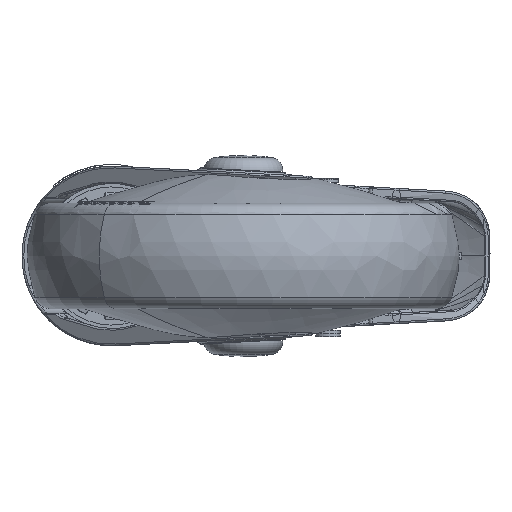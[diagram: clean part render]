
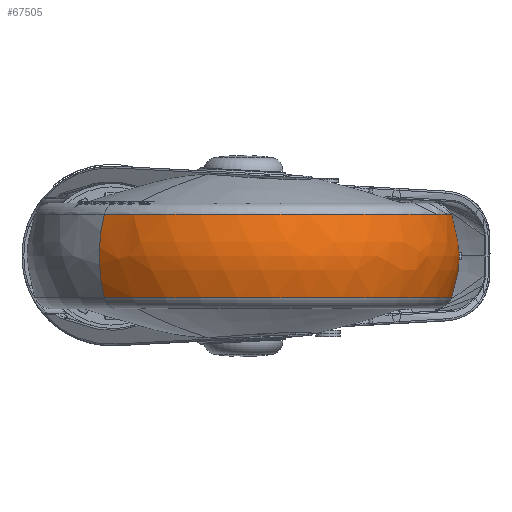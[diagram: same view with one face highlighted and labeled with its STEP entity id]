
A CAD part, front view. The second image highlights one B-rep face of the part: STEP entity #67505.
In plain terms, the highlighted free-form (B-spline) face has degree [3, 3] with [7, 4] control points.
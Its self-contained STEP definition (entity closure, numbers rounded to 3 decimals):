
#62583=CARTESIAN_POINT('',(38.,-82.3,12.017));
#62584=DIRECTION('',(0.,0.,1.));
#62585=DIRECTION('',(-0.667,-0.745,0.));
#62586=AXIS2_PLACEMENT_3D('',#62583,#62584,#62585);
#62588=CARTESIAN_POINT('',(57.001,-61.058,0.));
#62589=DIRECTION('',(0.745,-0.667,0.));
#62590=DIRECTION('',(0.624,0.697,-0.353));
#62591=AXIS2_PLACEMENT_3D('',#62588,#62589,#62590);
#62593=CARTESIAN_POINT('',(38.,-82.3,-12.017));
#62594=DIRECTION('',(0.,0.,1.));
#62595=DIRECTION('',(-0.667,-0.745,0.));
#62596=AXIS2_PLACEMENT_3D('',#62593,#62594,#62595);
#62598=CARTESIAN_POINT('',(18.999,-103.542,0.));
#62599=DIRECTION('',(-0.745,0.667,0.));
#62600=DIRECTION('',(-0.624,-0.697,-0.353));
#62601=AXIS2_PLACEMENT_3D('',#62598,#62599,#62600);
#66091=CARTESIAN_POINT('',(-2.205,-127.248,
12.017));
#66092=CARTESIAN_POINT('',(78.205,-37.352,
12.017));
#66093=VERTEX_POINT('',#66091);
#66094=VERTEX_POINT('',#66092);
#66095=CARTESIAN_POINT('',(-2.205,-127.248,
-12.017));
#66096=CARTESIAN_POINT('',(78.205,-37.352,
-12.017));
#66097=VERTEX_POINT('',#66095);
#66098=VERTEX_POINT('',#66096);
#67468=CARTESIAN_POINT('',(75.194,-35.055,
12.476));
#67469=CARTESIAN_POINT('',(77.174,-32.541,
4.361));
#67470=CARTESIAN_POINT('',(77.174,-32.541,
-4.361));
#67471=CARTESIAN_POINT('',(75.194,-35.055,
-12.476));
#67472=CARTESIAN_POINT('',(104.268,-57.944,
12.476));
#67473=CARTESIAN_POINT('',(107.795,-56.648,
4.361));
#67474=CARTESIAN_POINT('',(107.795,-56.648,
-4.361));
#67475=CARTESIAN_POINT('',(104.268,-57.944,
-12.476));
#67476=CARTESIAN_POINT('',(107.485,-94.807,
12.476));
#67477=CARTESIAN_POINT('',(111.184,-95.473,
4.361));
#67478=CARTESIAN_POINT('',(111.184,-95.473,
-4.361));
#67479=CARTESIAN_POINT('',(107.485,-94.807,
-12.476));
#67480=CARTESIAN_POINT('',(82.816,-122.387,
12.476));
#67481=CARTESIAN_POINT('',(85.202,-124.521,
4.361));
#67482=CARTESIAN_POINT('',(85.202,-124.521,
-4.361));
#67483=CARTESIAN_POINT('',(82.816,-122.387,
-12.476));
#67484=CARTESIAN_POINT('',(58.147,-149.967,
12.476));
#67485=CARTESIAN_POINT('',(59.219,-153.568,
4.361));
#67486=CARTESIAN_POINT('',(59.219,-153.568,
-4.361));
#67487=CARTESIAN_POINT('',(58.147,-149.967,
-12.476));
#67488=CARTESIAN_POINT('',(21.154,-150.863,
12.476));
#67489=CARTESIAN_POINT('',(20.258,-154.513,
4.361));
#67490=CARTESIAN_POINT('',(20.258,-154.513,
-4.361));
#67491=CARTESIAN_POINT('',(21.154,-150.863,
-12.476));
#67492=CARTESIAN_POINT('',(-4.822,-124.511,
12.476));
#67493=CARTESIAN_POINT('',(-7.101,-126.757,
4.361));
#67494=CARTESIAN_POINT('',(-7.101,-126.757,
-4.361));
#67495=CARTESIAN_POINT('',(-4.822,-124.511,
-12.476));
#67496=(BOUNDED_SURFACE()B_SPLINE_SURFACE(3,3,((#67468,#67469,#67470,#67471),(
#67472,#67473,#67474,#67475),(#67476,#67477,#67478,#67479),(#67480,#67481,
#67482,#67483),(#67484,#67485,#67486,#67487),(#67488,#67489,#67490,#67491),(
#67492,#67493,#67494,#67495)),.UNSPECIFIED.,.F.,.F.,.F.)B_SPLINE_SURFACE_WITH_KNOTS((4,3,4),(4,4),(0.,1.,2.),(0.,1.),.UNSPECIFIED.)GEOMETRIC_REPRESENTATION_ITEM()RATIONAL_B_SPLINE_SURFACE(((1.23,1.173,
1.173,1.23),(0.971,0.926,
0.926,0.971),(0.971,0.926,
0.926,0.971),(1.23,1.173,
1.173,1.23),(0.971,0.926,
0.926,0.971),(0.971,0.926,
0.926,0.971),(1.23,1.173,
1.173,1.23)))REPRESENTATION_ITEM('')SURFACE());
#67498=ORIENTED_EDGE('',*,*,#67497,.T.);
#67499=ORIENTED_EDGE('',*,*,#67065,.F.);
#67501=ORIENTED_EDGE('',*,*,#67500,.F.);
#67502=ORIENTED_EDGE('',*,*,#67061,.T.);
#67503=EDGE_LOOP('',(#67498,#67499,#67501,#67502));
#67504=FACE_OUTER_BOUND('',#67503,.F.);
#62587=CIRCLE('',#62586,60.305);
#62592=CIRCLE('',#62591,34.);
#62597=CIRCLE('',#62596,60.305);
#62602=CIRCLE('',#62601,34.);
#67061=EDGE_CURVE('',#66097,#66093,#62602,.T.);
#67065=EDGE_CURVE('',#66098,#66094,#62592,.T.);
#67497=EDGE_CURVE('',#66093,#66094,#62587,.T.);
#67500=EDGE_CURVE('',#66097,#66098,#62597,.T.);
#67505=ADVANCED_FACE('',(#67504),#67496,.T.);
